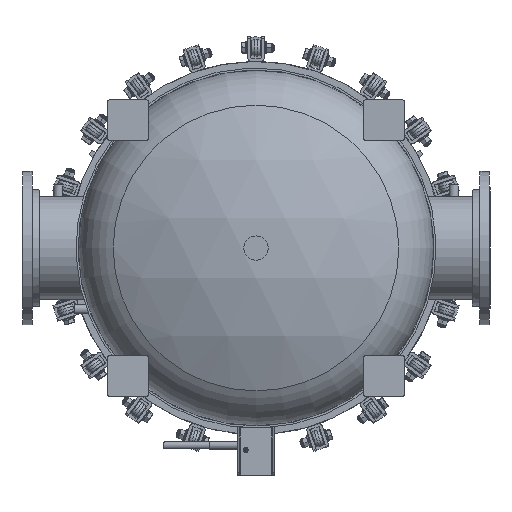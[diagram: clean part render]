
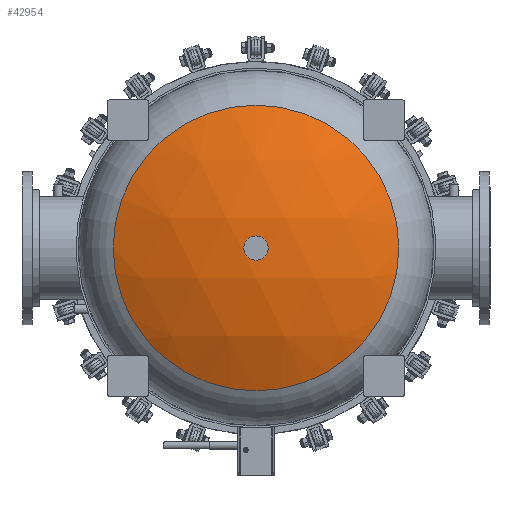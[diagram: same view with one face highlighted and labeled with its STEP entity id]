
A CAD part, front view. The second image highlights one B-rep face of the part: STEP entity #42954.
In plain terms, the highlighted spherical face has radius 1005.73 mm.
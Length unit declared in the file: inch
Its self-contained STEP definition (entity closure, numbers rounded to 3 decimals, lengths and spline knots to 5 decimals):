
#13183 = AXIS2_PLACEMENT_3D ( 'NONE', #44626, #44138, #74422 ) ;
#13552 = DIRECTION ( 'NONE',  ( 0., -1., 0. ) ) ;
#32903 = ORIENTED_EDGE ( 'NONE', *, *, #69329, .T. ) ;
#33173 = CARTESIAN_POINT ( 'NONE',  ( 0., -22.44279, 0. ) ) ;
#38232 = SPHERICAL_SURFACE ( 'NONE', #13183, 39.59575 ) ;
#42954 = ADVANCED_FACE ( 'NONE', ( #52929 ), #38232, .T. ) ;
#43354 = DIRECTION ( 'NONE',  ( 1., 0., 0. ) ) ;
#44138 = DIRECTION ( 'NONE',  ( 0., 0., -1. ) ) ;
#44626 = CARTESIAN_POINT ( 'NONE',  ( 0., 12.97194, 0. ) ) ;
#52929 = FACE_OUTER_BOUND ( 'NONE', #55344, .T. ) ;
#55344 = EDGE_LOOP ( 'NONE', ( #32903 ) ) ;
#67078 = CARTESIAN_POINT ( 'NONE',  ( 17.70933, -22.44279, 0. ) ) ;
#67544 = VERTEX_POINT ( 'NONE', #67078 ) ;
#69329 = EDGE_CURVE ( 'NONE', #67544, #67544, #71719, .T. ) ;
#71719 = CIRCLE ( 'NONE', #73266, 17.70933 ) ;
#73266 = AXIS2_PLACEMENT_3D ( 'NONE', #33173, #13552, #43354 ) ;
#74422 = DIRECTION ( 'NONE',  ( -1., 0., 0. ) ) ;
